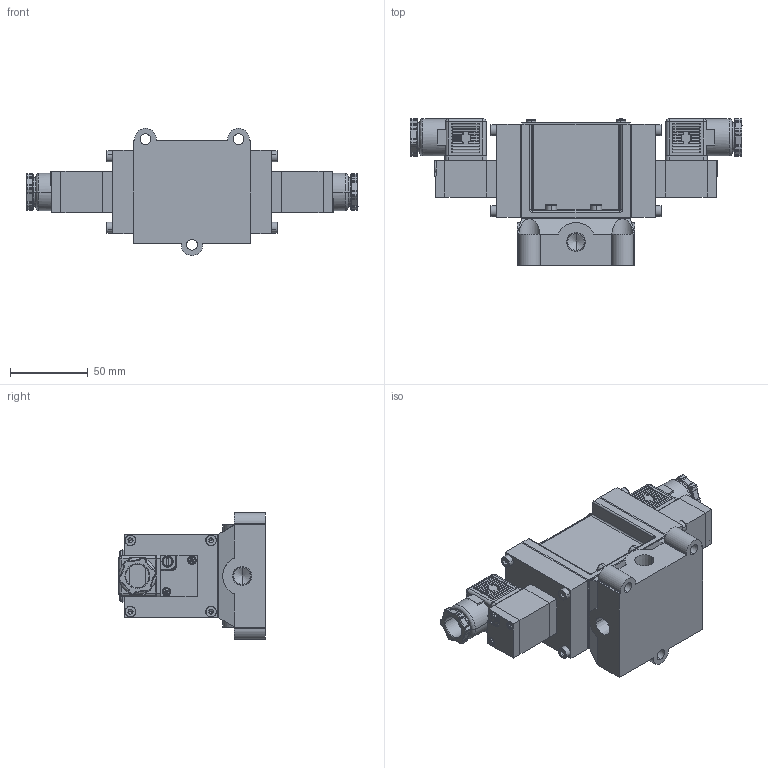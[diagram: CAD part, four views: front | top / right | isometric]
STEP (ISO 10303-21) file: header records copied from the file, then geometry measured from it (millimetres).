
FILE_DESCRIPTION (( 'STEP AP203' ), '1' );
FILE_NAME ('PMD2408#-02-#C#.STEP', '2016-03-09T06:20:46', ( 'Sam Lin' ), ( '' ), 'SwSTEP 2.0', 'SolidWorks 2013', '' );
FILE_SCHEMA (( 'CONFIG_CONTROL_DESIGN' ));
Length unit declared in the file: metre
Products named in the file (16): PMS2408-4; PM06-C5_1; PMS2408-5; PMS2306-6(C)_1; PMS2408-7; ISO 4762 M4 x 10; PMS2408-8; PMD2408#-02-#C#; PM08-MARK-2408; PM06-C3-M4_1; PMS2408-1; PM06-C1_1; PMS2408-2; PM06-C4_1; PMS2408-3; PM06-C6-M3_1
Assembly tree (38 placements, depth 2):
  PMD2408#-02-#C#
    PMS2408-1
    PMS2408-2
    PMS2408-3
    PMS2408-4  x2
    PMS2408-5  x2
    PMS2408-7
    PMS2408-8  x2
    PM08-MARK-2408
    PM06-C3-M4_1  x4
    PM06-C1_1  x2
    PM06-C4_1  x2
    PM06-C6-M3_1  x4
    PM06-C5_1  x2
    PMS2306-6(C)_1  x2
    ISO 4762 M4 x 10  x11
Bounding box: 214 x 94.64 x 82 mm (x, y, z)
Volume: 513915.8 mm3; surface area: 130943.7 mm2
Topology: 44 solids, 44 shells, 1583 faces, 3940 edges, 2249 vertices
Faces by surface type: plane 614, cylinder 439, bspline 396, cone 134
Entity records: 30453 total; most frequent: CARTESIAN_POINT 12310, ORIENTED_EDGE 3368, DIRECTION 3149, EDGE_CURVE 1684, AXIS2_PLACEMENT_3D 1165, VERTEX_POINT 1053, VECTOR 819, LINE 819
